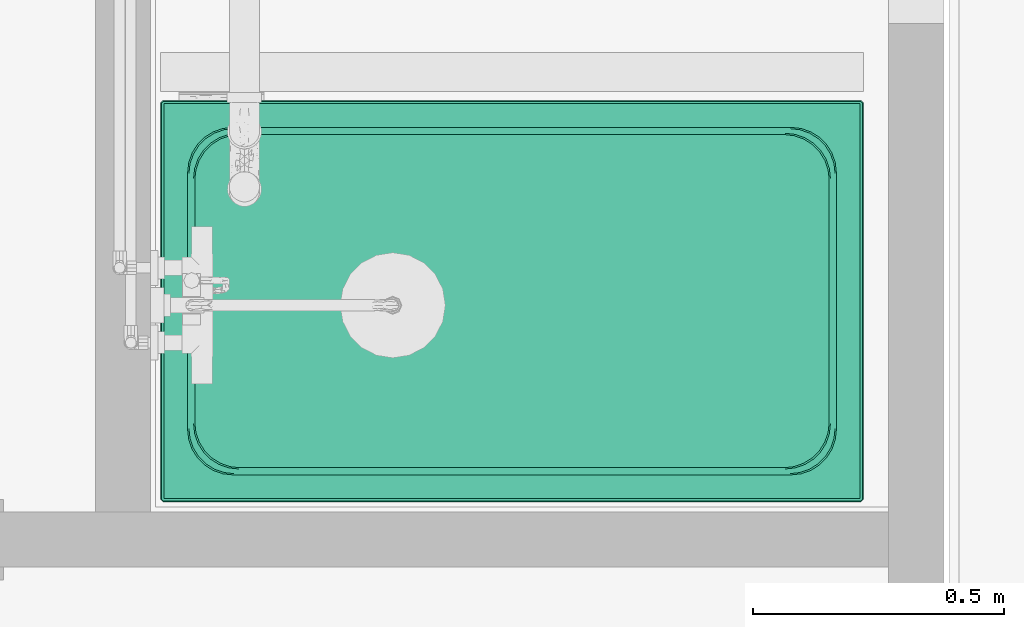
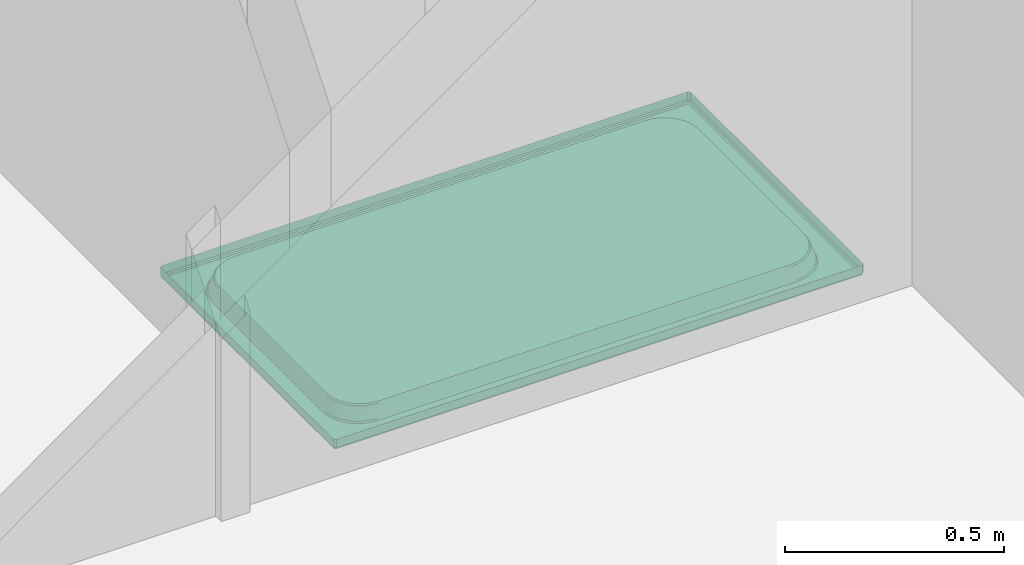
# One storey, part 32 of 41: 1 flow terminal.
"""IFC2X3 building model written with IfcOpenShell, lengths in millimetres."""

from ifc_helpers import new_model, entity, si_unit, converted_unit, derived_unit, direction, frame, origin, place, context, subcontext, project, spatial, face_set, surface_model, source, transform, mapped, element, save


model = new_model("IFC2X3")

# Units and contexts
model_context = context("Model", 3, precision=0.01, world=origin(), true_north=direction((6.12303176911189e-17, 1.0)))
body_context = subcontext(model_context, "Body", "Model", "MODEL_VIEW")
ifc_project = project(units=[si_unit("LENGTHUNIT", "METRE", prefix="MILLI"), si_unit("AREAUNIT", "SQUARE_METRE"), si_unit("VOLUMEUNIT", "CUBIC_METRE"), converted_unit("PLANEANGLEUNIT", "DEGREE", entity("IfcRatioMeasure", 0.0174532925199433), si_unit("PLANEANGLEUNIT", "RADIAN"), dimensions=[0, 0, 0, 0, 0, 0, 0]), si_unit("MASSUNIT", "GRAM", prefix="KILO"), derived_unit("MASSDENSITYUNIT", [(si_unit("MASSUNIT", "GRAM", prefix="KILO"), 1), (si_unit("LENGTHUNIT", "METRE"), -3)]), si_unit("TIMEUNIT", "SECOND"), si_unit("FREQUENCYUNIT", "HERTZ"), si_unit("THERMODYNAMICTEMPERATUREUNIT", "DEGREE_CELSIUS"), derived_unit("THERMALTRANSMITTANCEUNIT", [(si_unit("MASSUNIT", "GRAM", prefix="KILO"), 1), (si_unit("THERMODYNAMICTEMPERATUREUNIT", "KELVIN"), -1), (si_unit("TIMEUNIT", "SECOND"), -3)]), derived_unit("VOLUMETRICFLOWRATEUNIT", [(si_unit("LENGTHUNIT", "METRE"), 3), (si_unit("TIMEUNIT", "SECOND"), -1)]), si_unit("ELECTRICCURRENTUNIT", "AMPERE"), si_unit("ELECTRICVOLTAGEUNIT", "VOLT"), si_unit("POWERUNIT", "WATT"), si_unit("FORCEUNIT", "NEWTON", prefix="KILO"), si_unit("ILLUMINANCEUNIT", "LUX"), si_unit("LUMINOUSFLUXUNIT", "LUMEN"), si_unit("LUMINOUSINTENSITYUNIT", "CANDELA"), derived_unit("USERDEFINED", [(si_unit("MASSUNIT", "GRAM", prefix="KILO"), -1), (si_unit("LENGTHUNIT", "METRE"), -2), (si_unit("TIMEUNIT", "SECOND"), 3), (si_unit("LUMINOUSFLUXUNIT", "LUMEN"), 1)]), derived_unit("LINEARVELOCITYUNIT", [(si_unit("LENGTHUNIT", "METRE"), 1), (si_unit("TIMEUNIT", "SECOND"), -1)]), si_unit("PRESSUREUNIT", "PASCAL"), derived_unit("USERDEFINED", [(si_unit("LENGTHUNIT", "METRE"), -2), (si_unit("MASSUNIT", "GRAM", prefix="KILO"), 1), (si_unit("TIMEUNIT", "SECOND"), -2)])], contexts=[model_context])

# Site, building, storey
site_placement = place(None, origin())
site = spatial("IfcSite", under=ifc_project, at=site_placement, Name="Surface", CompositionType="ELEMENT")
building_placement = place(site_placement, origin())
building = spatial("IfcBuilding", under=site, at=building_placement, CompositionType="ELEMENT")
storey_placement = place(building_placement, frame((0.0, 0.0, 300.0)))
storey = spatial("IfcBuildingStorey", under=building, at=storey_placement, Name="F.F.L", CompositionType="ELEMENT", Elevation=300.0)

# Flow terminal
shared_shape = source(origin(), body_context, "Body", "SurfaceModel", [
    surface_model("IfcFaceBasedSurfaceModel", [(-5.34056911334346e-06, -794.999947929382, 22.9999996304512), (-5.34056911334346e-06, -4.99992873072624, 22.9999996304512), (-5.34056911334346e-06, -794.999947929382, -3.39753690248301e-07), (-5.34056911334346e-06, -4.99992873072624, -3.39753690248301e-07), (1395.000025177, -799.999933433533, 22.9999996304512), (4.9999951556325, -799.999933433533, 22.9999996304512), (1395.000025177, -799.999933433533, -3.39753690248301e-07), (4.9999951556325, -799.999933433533, -3.39753690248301e-07), (4.9999951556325, 7.14594890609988e-05, 22.9999996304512), (4.9999951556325, 7.14594890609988e-05, -3.39753690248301e-07), (1395.000025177, 7.14594890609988e-05, 22.9999996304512), (1395.000025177, 7.14594890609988e-05, -3.39753690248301e-07), (1400.00001068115, -4.99992873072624, 22.9999996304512), (1400.00001068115, -4.99992873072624, -3.39753690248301e-07), (1400.00001068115, -794.999947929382, 22.9999996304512), (1400.00001068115, -794.999947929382, -3.39753690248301e-07), (158.167961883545, -731.831928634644, -13.552993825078), (138.140986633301, -729.575889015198, -13.552993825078), (162.429020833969, -727.570924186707, -14.9999928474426), (142.401972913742, -725.3138671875, -14.9999905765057), (119.117974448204, -722.918955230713, -13.5529904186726), (123.379996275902, -718.657878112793, -14.9999883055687), (102.054008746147, -712.196862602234, -13.5529858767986), (106.314995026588, -707.93593082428, -14.9999848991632), (87.8029709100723, -697.945915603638, -13.5529824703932), (92.0640207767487, -693.684911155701, -14.9999814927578), (77.0809872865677, -680.881913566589, -13.5529767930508), (81.341973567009, -676.619891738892, -14.9999746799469), (70.4240080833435, -661.858946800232, -13.5529688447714), (74.6859708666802, -657.597869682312, -14.999967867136), (68.1679639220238, -641.831898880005, -13.552963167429), (72.4290137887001, -637.570894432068, -14.9999621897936), (155.66796913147, -734.331921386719, -9.8119942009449), (135.640984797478, -732.075881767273, -9.81199306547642), (116.617972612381, -725.418947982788, -9.81199079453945), (99.5540069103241, -714.696855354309, -9.81198852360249), (85.3029690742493, -700.445908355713, -9.81198284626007), (74.5809899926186, -683.381906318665, -9.81197716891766), (67.9240062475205, -664.358939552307, -9.81196922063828), (65.6679620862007, -644.33189163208, -9.81196240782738), (146.390001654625, -743.609916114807, 24.8120052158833), (126.36400744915, -741.352931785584, 24.8120052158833), (107.340995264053, -734.696942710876, 24.8120052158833), (90.27599401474, -723.97390537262, 24.8120097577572), (76.0259962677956, -709.723903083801, 24.8120142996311), (65.3029725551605, -692.658956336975, 24.8120188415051), (58.6469698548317, -673.635916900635, 24.8120279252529), (56.3900082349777, -653.609886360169, 24.8120370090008), (143.89000890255, -746.109908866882, 28.5530014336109), (123.862970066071, -743.852924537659, 28.5530014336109), (104.84099342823, -737.196935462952, 28.5530059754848), (87.7759921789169, -726.474915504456, 28.5530105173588), (73.5250179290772, -712.223895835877, 28.5530150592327), (62.8029752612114, -695.15894908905, 28.5530196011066), (56.1469680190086, -676.136927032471, 28.5530241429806), (53.8900109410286, -656.109879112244, 28.5530332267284), (139.629022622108, -750.370913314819, 30.000001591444), (119.601983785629, -748.114946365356, 30.000001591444), (100.578971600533, -741.457939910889, 30.000006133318), (83.5150058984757, -730.735919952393, 30.000006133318), (69.2639726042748, -716.484900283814, 30.0000106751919), (58.5419889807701, -699.420970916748, 30.0000197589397), (51.885005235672, -680.397931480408, 30.0000243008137), (49.6290246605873, -660.370883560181, 30.0000288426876), (1331.83295059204, -641.831898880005, -13.552963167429), (1329.57611160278, -661.858946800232, -13.5529688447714), (1327.57100143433, -637.570894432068, -14.9999621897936), (1325.3148891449, -657.597869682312, -14.999967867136), (1322.91997718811, -680.881913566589, -13.5529767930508), (1318.6580280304, -676.619891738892, -14.9999746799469), (1312.19708518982, -697.945915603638, -13.5529824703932), (1307.9360080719, -693.684911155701, -14.9999814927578), (1297.947082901, -712.196862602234, -13.5529858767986), (1293.68498840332, -707.93593082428, -14.9999848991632), (1280.88199081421, -722.918955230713, -13.5529904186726), (1276.62091369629, -718.657878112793, -14.9999883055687), (1261.86004142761, -729.575889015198, -13.552993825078), (1257.5980922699, -725.3138671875, -14.9999905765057), (1241.83306617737, -731.831928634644, -13.552993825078), (1237.57111701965, -727.570924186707, -14.9999928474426), (1334.33294334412, -644.33189163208, -9.81196240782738), (1332.07610435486, -664.358939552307, -9.81196922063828), (1325.42011528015, -683.381906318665, -9.81197716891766), (1314.69794998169, -700.445908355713, -9.81198284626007), (1300.44707565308, -714.696855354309, -9.81198852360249), (1283.38198356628, -725.418947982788, -9.81199079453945), (1264.36003417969, -732.075881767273, -9.81199306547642), (1244.33305892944, -734.331921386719, -9.8119942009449), (1343.60999336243, -653.609886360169, 24.8120370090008), (1341.35402641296, -673.635916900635, 24.8120279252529), (1334.6970199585, -692.658956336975, 24.8120188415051), (1323.975, -709.723903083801, 24.8120142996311), (1309.72398033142, -723.97390537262, 24.8120097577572), (1292.66005096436, -734.696942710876, 24.8120052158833), (1273.63693885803, -741.352931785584, 24.8120052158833), (1253.60996360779, -743.609916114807, 24.8120052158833), (1346.1099861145, -656.109879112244, 28.5530332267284), (1343.85401916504, -676.136927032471, 28.5530241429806), (1337.19701271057, -695.15894908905, 28.5530196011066), (1326.47499275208, -712.223895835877, 28.5530150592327), (1312.2239730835, -726.474915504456, 28.5530105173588), (1295.16004371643, -737.196935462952, 28.5530059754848), (1276.13693161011, -743.852924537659, 28.5530014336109), (1256.10995635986, -746.109908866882, 28.5530014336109), (1350.37193527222, -660.370883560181, 30.0000288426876), (1348.11495094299, -680.397931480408, 30.0000243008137), (1341.45896186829, -699.420970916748, 30.0000197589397), (1330.73592453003, -716.484900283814, 30.0000106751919), (1316.48592224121, -730.735919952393, 30.000006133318), (1299.42097549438, -741.457939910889, 30.000006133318), (1280.39800872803, -748.114946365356, 30.000001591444), (1260.37190551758, -750.370913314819, 30.000001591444), (1241.83306617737, -68.1669192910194, -13.552763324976), (1261.86004142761, -70.423908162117, -13.5527644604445), (1237.57111701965, -72.4289138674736, -14.999765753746), (1257.5980922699, -74.6849262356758, -14.999765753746), (1280.88199081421, -77.0799154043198, -13.5527667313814), (1276.62091369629, -81.3419099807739, -14.9997668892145), (1297.947082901, -87.8029073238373, -13.5527701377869), (1293.68498840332, -92.0639208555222, -14.9997714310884), (1312.19708518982, -102.052909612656, -13.5527758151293), (1307.9360080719, -106.314931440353, -14.9997771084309), (1322.91997718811, -119.117910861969, -13.5527826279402), (1318.6580280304, -123.37889714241, -14.9997827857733), (1329.57611160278, -138.139914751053, -13.5527883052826), (1325.3148891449, -142.401909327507, -14.9997907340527), (1331.83295059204, -158.166926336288, -13.5527951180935), (1327.57100143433, -162.428911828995, -14.9997964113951), (1244.33305892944, -65.6669174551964, -9.81176370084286), (1264.36003417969, -67.9239063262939, -9.81176370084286), (1283.38198356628, -74.5799135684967, -9.81176597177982), (1300.44707565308, -85.3019335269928, -9.81176937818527), (1314.69794998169, -99.5529077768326, -9.81177505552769), (1325.42011528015, -116.617909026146, -9.8117807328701), (1332.07610435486, -135.63991291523, -9.81178641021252), (1334.33294334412, -155.666915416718, -9.8117943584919), (1253.60996360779, -56.3899401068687, 24.8122413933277), (1273.63693885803, -58.6459252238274, 24.8122413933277), (1292.66005096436, -65.3029362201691, 24.8122368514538), (1309.72398033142, -76.0249198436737, 24.8122323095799), (1323.975, -90.275930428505, 24.8122277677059), (1334.6970199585, -107.339923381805, 24.812223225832), (1341.35402641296, -126.362935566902, 24.8122186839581), (1343.60999336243, -146.389928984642, 24.8122096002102), (1256.10995635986, -53.8899428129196, 28.5532421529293), (1276.13693161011, -56.1459233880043, 28.5532421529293), (1295.16004371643, -62.802934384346, 28.5532376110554), (1312.2239730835, -73.5249225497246, 28.5532330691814), (1326.47499275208, -87.7759285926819, 28.5532285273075), (1337.19701271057, -104.839921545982, 28.5532239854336), (1343.85401916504, -123.862933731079, 28.5532194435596), (1346.1099861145, -143.889945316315, 28.5532103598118), (1260.37190551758, -49.6279164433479, 30.0002423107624), (1280.39800872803, -51.884937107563, 30.0002423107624), (1299.42097549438, -58.5409443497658, 30.0002423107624), (1316.48592224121, -69.2639362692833, 30.0002377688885), (1330.73592453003, -83.5139340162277, 30.0002332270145), (1341.45896186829, -100.578935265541, 30.0002241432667), (1348.11495094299, -119.601920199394, 30.0002196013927), (1350.37193527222, -139.627914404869, 30.0002105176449), (68.1679639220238, -158.166926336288, -13.5527951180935), (70.4240080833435, -138.139914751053, -13.5527883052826), (72.4290137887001, -162.428911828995, -14.9997964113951), (74.6859708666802, -142.401909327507, -14.9997907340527), (77.0809872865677, -119.117910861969, -13.5527826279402), (81.341973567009, -123.37889714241, -14.9997827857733), (87.8029709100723, -102.052909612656, -13.5527758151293), (92.0640207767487, -106.314931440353, -14.9997771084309), (102.054008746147, -87.8029073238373, -13.5527701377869), (106.314995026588, -92.0639208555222, -14.9997714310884), (119.117974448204, -77.0799154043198, -13.5527667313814), (123.379996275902, -81.3419099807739, -14.9997668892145), (138.140986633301, -70.423908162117, -13.5527644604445), (142.401972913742, -74.6849262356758, -14.999765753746), (158.167961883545, -68.1669192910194, -13.552763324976), (162.429020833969, -72.4289138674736, -14.999765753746), (65.6679620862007, -155.666915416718, -9.8117943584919), (67.9240062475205, -135.63991291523, -9.81178641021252), (74.5809899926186, -116.617909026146, -9.8117807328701), (85.3029690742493, -99.5529077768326, -9.81177505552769), (99.5540069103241, -85.3019335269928, -9.81176937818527), (116.617972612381, -74.5799135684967, -9.81176597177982), (135.640984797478, -67.9239063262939, -9.81176370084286), (155.66796913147, -65.6669174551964, -9.81176370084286), (56.3900082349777, -146.389928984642, 24.8122096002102), (58.6469698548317, -126.362935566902, 24.8122186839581), (65.3029725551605, -107.339923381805, 24.812223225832), (76.0259962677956, -90.275930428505, 24.8122277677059), (90.27599401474, -76.0249198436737, 24.8122323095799), (107.340995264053, -65.3029362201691, 24.8122368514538), (126.36400744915, -58.6459252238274, 24.8122413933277), (146.390001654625, -56.3899401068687, 24.8122413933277), (53.8900109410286, -143.889945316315, 28.5532103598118), (56.1469680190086, -123.862933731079, 28.5532194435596), (62.8029752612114, -104.839921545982, 28.5532239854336), (73.5250179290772, -87.7759285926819, 28.5532285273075), (87.7759921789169, -73.5249225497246, 28.5532330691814), (104.84099342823, -62.802934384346, 28.5532376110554), (123.862970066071, -56.1459233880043, 28.5532421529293), (143.89000890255, -53.8899428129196, 28.5532421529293), (49.6290246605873, -139.627914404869, 30.0002105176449), (51.885005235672, -119.601920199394, 30.0002196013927), (58.5419889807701, -100.578935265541, 30.0002241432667), (69.2639726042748, -83.5139340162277, 30.0002332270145), (83.5150058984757, -69.2639362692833, 30.0002377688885), (100.578971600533, -58.5409443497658, 30.0002423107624), (119.601983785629, -51.884937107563, 30.0002423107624), (139.629022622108, -49.6279164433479, 30.0002423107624), (1394.21489868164, -798.105935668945, 27.9499995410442), (1398.10594024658, -794.214966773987, 27.9499995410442), (1392.32097358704, -793.532958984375, 30.000006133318), (1393.53296356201, -792.320896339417, 30.000006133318), (5.78496779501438, -798.105935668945, 27.9499995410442), (7.6790109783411, -793.532958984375, 30.000006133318), (1.89397647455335, -794.214966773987, 27.9499995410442), (6.46697501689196, -792.320896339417, 30.000006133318), (1.89397647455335, -5.78493202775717, 27.9502765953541), (6.46697501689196, -7.67891389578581, 30.0002741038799), (5.78496779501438, -1.89394099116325, 27.9502765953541), (7.6790109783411, -6.4669386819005, 30.0002741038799), (1394.21489868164, -1.89394099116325, 27.9502765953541), (1392.32097358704, -6.4669386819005, 30.0002741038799), (1398.10594024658, -5.78493202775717, 27.9502765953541), (1393.53296356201, -7.67891389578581, 30.0002741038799), (1278.00004463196, -172.999923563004, -13.7999990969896), (1276.46699867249, -161.352923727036, -13.7999990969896), (1233.00002975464, -172.999923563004, -12.7999988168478), (1271.97090682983, -150.499925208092, -13.7999990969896), (1264.81988983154, -141.179918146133, -13.7999990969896), (1255.49996452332, -134.028919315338, -13.7999990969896), (1244.64699325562, -129.532945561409, -13.7999990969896), (1233.00002975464, -127.99992685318, -13.7999990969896), (1221.35306625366, -129.532945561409, -13.7999990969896), (1210.50002231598, -134.028919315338, -13.7999990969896), (1201.18002433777, -141.179918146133, -13.7999990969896), (1194.02908000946, -150.499925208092, -13.7999990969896), (1189.53298816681, -161.352923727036, -13.7999990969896), (1188.00001487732, -172.999923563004, -13.7999990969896), (1189.53298816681, -184.646923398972, -13.7999990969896), (1194.02908000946, -195.499931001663, -13.7999990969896), (1201.18002433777, -204.819928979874, -13.7999990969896), (1210.50002231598, -211.970927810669, -13.7999990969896), (1221.35306625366, -216.466928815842, -13.7999990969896), (1233.00002975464, -217.999920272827, -13.7999990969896), (1244.64699325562, -216.466928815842, -13.7999990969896), (1255.49996452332, -211.970927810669, -13.7999990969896), (1264.81988983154, -204.819928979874, -13.7999990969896), (1271.97090682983, -195.499931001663, -13.7999990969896), (1276.46699867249, -184.646923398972, -13.7999990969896), (1278.00004463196, -172.999923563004, -14.7999993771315), (1276.46699867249, -161.352923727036, -14.7999993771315), (1271.97090682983, -150.499925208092, -14.7999993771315), (1264.81988983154, -141.179918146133, -14.7999993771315), (1255.49996452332, -134.028919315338, -14.7999993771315), (1244.64699325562, -129.532945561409, -14.7999993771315), (1233.00002975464, -127.99992685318, -14.7999993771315), (1221.35306625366, -129.532945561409, -14.7999993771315), (1210.50002231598, -134.028919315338, -14.7999993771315), (1201.18002433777, -141.179918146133, -14.7999993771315), (1194.02908000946, -150.499925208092, -14.7999993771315), (1189.53298816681, -161.352923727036, -14.7999993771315), (1188.00001487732, -172.999923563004, -14.7999993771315), (1189.53298816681, -184.646923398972, -14.7999993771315), (1194.02908000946, -195.499931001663, -14.7999993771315), (1201.18002433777, -204.819928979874, -14.7999993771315), (1210.50002231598, -211.970927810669, -14.7999993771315), (1221.35306625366, -216.466928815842, -14.7999993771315), (1233.00002975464, -217.999920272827, -14.7999993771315), (1244.64699325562, -216.466928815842, -14.7999993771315), (1255.49996452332, -211.970927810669, -14.7999993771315), (1264.81988983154, -204.819928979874, -14.7999993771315), (1271.97090682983, -195.499931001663, -14.7999993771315), (1276.46699867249, -184.646923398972, -14.7999993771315), (1179.87405738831, -187.234919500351, -13.7999990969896), (1177.99997119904, -172.999923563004, -13.7999990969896), (1179.87405738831, -158.764927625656, -13.7999990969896), (1185.36899814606, -145.499930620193, -13.7999990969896), (1194.10901699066, -134.10893805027, -13.7999990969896), (1205.49996414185, -125.368946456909, -13.7999990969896), (1218.7649974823, -119.873923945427, -13.7999990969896), (1233.00002975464, -117.999928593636, -13.7999990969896), (1247.23491668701, -119.873923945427, -13.7999990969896), (1260.49995002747, -125.368946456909, -13.7999990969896), (1271.89096984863, -134.10893805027, -13.7999990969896), (1280.63098869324, -145.499930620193, -13.7999990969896), (1286.12600212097, -158.764927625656, -13.7999990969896), (1288.00001564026, -172.999923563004, -13.7999990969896), (1286.12600212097, -187.234919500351, -13.7999990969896), (1280.63098869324, -200.499934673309, -13.7999990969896), (1271.89096984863, -211.890936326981, -13.7999990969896), (1260.49995002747, -220.630918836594, -13.7999990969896), (1247.23491668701, -226.125932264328, -13.7999990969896), (1233.00002975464, -227.999927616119, -13.7999990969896), (1218.7649974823, -226.125932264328, -13.7999990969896), (1205.49996414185, -220.630918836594, -13.7999990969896), (1194.10901699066, -211.890936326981, -13.7999990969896), (1185.36899814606, -200.499934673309, -13.7999990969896)], [face_set([[[0, 1, 2]], [[1, 3, 2]], [[4, 5, 6]], [[5, 7, 6]], [[5, 0, 7]], [[0, 2, 7]], [[1, 8, 3]], [[8, 9, 3]], [[8, 10, 9]], [[10, 11, 9]], [[10, 12, 11]], [[12, 13, 11]], [[14, 4, 15]], [[4, 6, 15]], [[12, 14, 13]], [[14, 15, 13]], [[16, 17, 18]], [[17, 19, 18]], [[17, 20, 19]], [[20, 21, 19]], [[20, 22, 21]], [[22, 23, 21]], [[22, 24, 23]], [[24, 25, 23]], [[24, 26, 25]], [[26, 27, 25]], [[26, 28, 27]], [[28, 29, 27]], [[28, 30, 29]], [[30, 31, 29]], [[32, 33, 16]], [[33, 17, 16]], [[33, 34, 17]], [[34, 20, 17]], [[34, 35, 20]], [[35, 22, 20]], [[35, 36, 22]], [[36, 24, 22]], [[36, 37, 24]], [[37, 26, 24]], [[37, 38, 26]], [[38, 28, 26]], [[38, 39, 28]], [[39, 30, 28]], [[40, 41, 32]], [[41, 33, 32]], [[41, 42, 33]], [[42, 34, 33]], [[42, 43, 34]], [[43, 35, 34]], [[43, 44, 35]], [[44, 36, 35]], [[44, 45, 36]], [[45, 37, 36]], [[45, 46, 37]], [[46, 38, 37]], [[46, 47, 38]], [[47, 39, 38]], [[48, 49, 40]], [[49, 41, 40]], [[49, 50, 41]], [[50, 42, 41]], [[50, 51, 42]], [[51, 43, 42]], [[51, 52, 43]], [[52, 44, 43]], [[52, 53, 44]], [[53, 45, 44]], [[53, 54, 45]], [[54, 46, 45]], [[54, 55, 46]], [[55, 47, 46]], [[56, 57, 48]], [[57, 49, 48]], [[57, 58, 49]], [[58, 50, 49]], [[58, 59, 50]], [[59, 51, 50]], [[59, 60, 51]], [[60, 52, 51]], [[60, 61, 52]], [[61, 53, 52]], [[61, 62, 53]], [[62, 54, 53]], [[62, 63, 54]], [[63, 55, 54]], [[64, 65, 66]], [[65, 67, 66]], [[65, 68, 67]], [[68, 69, 67]], [[68, 70, 69]], [[70, 71, 69]], [[70, 72, 71]], [[72, 73, 71]], [[72, 74, 73]], [[74, 75, 73]], [[74, 76, 75]], [[76, 77, 75]], [[76, 78, 77]], [[78, 79, 77]], [[80, 81, 64]], [[81, 65, 64]], [[81, 82, 65]], [[82, 68, 65]], [[82, 83, 68]], [[83, 70, 68]], [[83, 84, 70]], [[84, 72, 70]], [[84, 85, 72]], [[85, 74, 72]], [[85, 86, 74]], [[86, 76, 74]], [[86, 87, 76]], [[87, 78, 76]], [[88, 89, 80]], [[89, 81, 80]], [[89, 90, 81]], [[90, 82, 81]], [[90, 91, 82]], [[91, 83, 82]], [[91, 92, 83]], [[92, 84, 83]], [[92, 93, 84]], [[93, 85, 84]], [[93, 94, 85]], [[94, 86, 85]], [[94, 95, 86]], [[95, 87, 86]], [[96, 97, 88]], [[97, 89, 88]], [[97, 98, 89]], [[98, 90, 89]], [[98, 99, 90]], [[99, 91, 90]], [[99, 100, 91]], [[100, 92, 91]], [[100, 101, 92]], [[101, 93, 92]], [[101, 102, 93]], [[102, 94, 93]], [[102, 103, 94]], [[103, 95, 94]], [[104, 105, 96]], [[105, 97, 96]], [[105, 106, 97]], [[106, 98, 97]], [[106, 107, 98]], [[107, 99, 98]], [[107, 108, 99]], [[108, 100, 99]], [[108, 109, 100]], [[109, 101, 100]], [[109, 110, 101]], [[110, 102, 101]], [[110, 111, 102]], [[111, 103, 102]], [[112, 113, 114]], [[113, 115, 114]], [[113, 116, 115]], [[116, 117, 115]], [[116, 118, 117]], [[118, 119, 117]], [[118, 120, 119]], [[120, 121, 119]], [[120, 122, 121]], [[122, 123, 121]], [[122, 124, 123]], [[124, 125, 123]], [[124, 126, 125]], [[126, 127, 125]], [[128, 129, 112]], [[129, 113, 112]], [[129, 130, 113]], [[130, 116, 113]], [[130, 131, 116]], [[131, 118, 116]], [[131, 132, 118]], [[132, 120, 118]], [[132, 133, 120]], [[133, 122, 120]], [[133, 134, 122]], [[134, 124, 122]], [[134, 135, 124]], [[135, 126, 124]], [[136, 137, 128]], [[137, 129, 128]], [[137, 138, 129]], [[138, 130, 129]], [[138, 139, 130]], [[139, 131, 130]], [[139, 140, 131]], [[140, 132, 131]], [[140, 141, 132]], [[141, 133, 132]], [[141, 142, 133]], [[142, 134, 133]], [[142, 143, 134]], [[143, 135, 134]], [[144, 145, 136]], [[145, 137, 136]], [[145, 146, 137]], [[146, 138, 137]], [[146, 147, 138]], [[147, 139, 138]], [[147, 148, 139]], [[148, 140, 139]], [[148, 149, 140]], [[149, 141, 140]], [[149, 150, 141]], [[150, 142, 141]], [[150, 151, 142]], [[151, 143, 142]], [[152, 153, 144]], [[153, 145, 144]], [[153, 154, 145]], [[154, 146, 145]], [[154, 155, 146]], [[155, 147, 146]], [[155, 156, 147]], [[156, 148, 147]], [[156, 157, 148]], [[157, 149, 148]], [[157, 158, 149]], [[158, 150, 149]], [[158, 159, 150]], [[159, 151, 150]], [[160, 161, 162]], [[161, 163, 162]], [[161, 164, 163]], [[164, 165, 163]], [[164, 166, 165]], [[166, 167, 165]], [[166, 168, 167]], [[168, 169, 167]], [[168, 170, 169]], [[170, 171, 169]], [[170, 172, 171]], [[172, 173, 171]], [[172, 174, 173]], [[174, 175, 173]], [[176, 177, 160]], [[177, 161, 160]], [[177, 178, 161]], [[178, 164, 161]], [[178, 179, 164]], [[179, 166, 164]], [[179, 180, 166]], [[180, 168, 166]], [[180, 181, 168]], [[181, 170, 168]], [[181, 182, 170]], [[182, 172, 170]], [[182, 183, 172]], [[183, 174, 172]], [[184, 185, 176]], [[185, 177, 176]], [[185, 186, 177]], [[186, 178, 177]], [[186, 187, 178]], [[187, 179, 178]], [[187, 188, 179]], [[188, 180, 179]], [[188, 189, 180]], [[189, 181, 180]], [[189, 190, 181]], [[190, 182, 181]], [[190, 191, 182]], [[191, 183, 182]], [[192, 193, 184]], [[193, 185, 184]], [[193, 194, 185]], [[194, 186, 185]], [[194, 195, 186]], [[195, 187, 186]], [[195, 196, 187]], [[196, 188, 187]], [[196, 197, 188]], [[197, 189, 188]], [[197, 198, 189]], [[198, 190, 189]], [[198, 199, 190]], [[199, 191, 190]], [[200, 201, 192]], [[201, 193, 192]], [[201, 202, 193]], [[202, 194, 193]], [[202, 203, 194]], [[203, 195, 194]], [[203, 204, 195]], [[204, 196, 195]], [[204, 205, 196]], [[205, 197, 196]], [[205, 206, 197]], [[206, 198, 197]], [[206, 207, 198]], [[207, 199, 198]], [[144, 199, 152]], [[199, 207, 152]], [[136, 191, 144]], [[191, 199, 144]], [[128, 183, 136]], [[183, 191, 136]], [[112, 174, 128]], [[174, 183, 128]], [[114, 175, 112]], [[175, 174, 112]], [[96, 151, 104]], [[151, 159, 104]], [[88, 143, 96]], [[143, 151, 96]], [[80, 135, 88]], [[135, 143, 88]], [[64, 126, 80]], [[126, 135, 80]], [[66, 127, 64]], [[127, 126, 64]], [[48, 103, 56]], [[103, 111, 56]], [[40, 95, 48]], [[95, 103, 48]], [[32, 87, 40]], [[87, 95, 40]], [[16, 78, 32]], [[78, 87, 32]], [[18, 79, 16]], [[79, 78, 16]], [[192, 55, 200]], [[55, 63, 200]], [[184, 47, 192]], [[47, 55, 192]], [[176, 39, 184]], [[39, 47, 184]], [[160, 30, 176]], [[30, 39, 176]], [[162, 31, 160]], [[31, 30, 160]], [[4, 208, 14]], [[208, 209, 14]], [[208, 210, 209]], [[210, 211, 209]], [[5, 212, 4]], [[212, 208, 4]], [[212, 213, 208]], [[213, 210, 208]], [[0, 214, 5]], [[214, 212, 5]], [[214, 215, 212]], [[215, 213, 212]], [[1, 216, 0]], [[216, 214, 0]], [[216, 217, 214]], [[217, 215, 214]], [[8, 218, 1]], [[218, 216, 1]], [[218, 219, 216]], [[219, 217, 216]], [[10, 220, 8]], [[220, 218, 8]], [[220, 221, 218]], [[221, 219, 218]], [[12, 222, 10]], [[222, 220, 10]], [[222, 223, 220]], [[223, 221, 220]], [[14, 209, 12]], [[209, 222, 12]], [[209, 211, 222]], [[211, 223, 222]], [[18, 19, 21]], [[18, 21, 23]], [[18, 23, 25]], [[18, 25, 27]], [[18, 27, 29]], [[18, 29, 31]], [[18, 31, 162]], [[18, 162, 163]], [[18, 163, 165]], [[18, 165, 167]], [[18, 167, 169]], [[18, 169, 171]], [[18, 171, 173]], [[18, 173, 175]], [[18, 175, 114]], [[18, 114, 115]], [[18, 115, 117]], [[18, 117, 119]], [[18, 119, 121]], [[18, 121, 123]], [[18, 123, 125]], [[18, 125, 127]], [[18, 127, 66]], [[18, 66, 67]], [[18, 67, 69]], [[18, 69, 71]], [[18, 71, 73]], [[18, 73, 75]], [[18, 75, 77]], [[18, 77, 79]], [[221, 223, 210]], [[221, 210, 104]], [[221, 104, 159]], [[221, 159, 158]], [[221, 158, 157]], [[221, 157, 156]], [[221, 156, 155]], [[221, 155, 154]], [[221, 154, 153]], [[221, 153, 152]], [[221, 152, 207]], [[221, 207, 219]], [[219, 207, 206]], [[219, 206, 205]], [[219, 205, 204]], [[219, 204, 203]], [[219, 203, 202]], [[219, 202, 201]], [[219, 201, 200]], [[219, 200, 213]], [[219, 213, 215]], [[219, 215, 217]], [[210, 213, 56]], [[210, 56, 111]], [[210, 111, 110]], [[210, 110, 109]], [[210, 109, 108]], [[210, 108, 107]], [[210, 107, 106]], [[210, 106, 105]], [[210, 105, 104]], [[213, 200, 63]], [[213, 63, 62]], [[213, 62, 61]], [[213, 61, 60]], [[213, 60, 59]], [[213, 59, 58]], [[213, 58, 57]], [[213, 57, 56]], [[210, 223, 211]]]), face_set([[[224, 225, 226]], [[225, 227, 226]], [[227, 228, 226]], [[228, 229, 226]], [[229, 230, 226]], [[230, 231, 226]], [[231, 232, 226]], [[232, 233, 226]], [[233, 234, 226]], [[234, 235, 226]], [[235, 236, 226]], [[236, 237, 226]], [[237, 238, 226]], [[238, 239, 226]], [[239, 240, 226]], [[240, 241, 226]], [[241, 242, 226]], [[242, 243, 226]], [[243, 244, 226]], [[244, 245, 226]], [[245, 246, 226]], [[246, 247, 226]], [[247, 248, 226]], [[248, 224, 226]], [[249, 250, 224]], [[250, 225, 224]], [[250, 251, 225]], [[251, 227, 225]], [[251, 252, 227]], [[252, 228, 227]], [[252, 253, 228]], [[253, 229, 228]], [[253, 254, 229]], [[254, 230, 229]], [[254, 255, 230]], [[255, 231, 230]], [[255, 256, 231]], [[256, 232, 231]], [[256, 257, 232]], [[257, 233, 232]], [[257, 258, 233]], [[258, 234, 233]], [[258, 259, 234]], [[259, 235, 234]], [[259, 260, 235]], [[260, 236, 235]], [[260, 261, 236]], [[261, 237, 236]], [[261, 262, 237]], [[262, 238, 237]], [[262, 263, 238]], [[263, 239, 238]], [[263, 264, 239]], [[264, 240, 239]], [[264, 265, 240]], [[265, 241, 240]], [[265, 266, 241]], [[266, 242, 241]], [[266, 267, 242]], [[267, 243, 242]], [[267, 268, 243]], [[268, 244, 243]], [[268, 269, 244]], [[269, 245, 244]], [[269, 270, 245]], [[270, 246, 245]], [[270, 271, 246]], [[271, 247, 246]], [[271, 272, 247]], [[272, 248, 247]], [[272, 249, 248]], [[249, 224, 248]], [[249, 272, 271]], [[249, 271, 270]], [[249, 270, 269]], [[249, 269, 268]], [[249, 268, 267]], [[249, 267, 266]], [[249, 266, 265]], [[249, 265, 264]], [[249, 264, 263]], [[249, 263, 262]], [[249, 262, 261]], [[249, 261, 260]], [[249, 260, 259]], [[249, 259, 258]], [[249, 258, 257]], [[249, 257, 256]], [[249, 256, 255]], [[249, 255, 254]], [[249, 254, 253]], [[249, 253, 252]], [[249, 252, 251]], [[249, 251, 250]], [[262, 273, 261]], [[273, 274, 261]], [[261, 274, 260]], [[274, 275, 260]], [[260, 275, 259]], [[275, 276, 259]], [[259, 276, 258]], [[276, 277, 258]], [[258, 277, 257]], [[277, 278, 257]], [[257, 278, 256]], [[278, 279, 256]], [[256, 279, 255]], [[279, 280, 255]], [[255, 280, 254]], [[280, 281, 254]], [[254, 281, 253]], [[281, 282, 253]], [[253, 282, 252]], [[282, 283, 252]], [[252, 283, 251]], [[283, 284, 251]], [[251, 284, 250]], [[284, 285, 250]], [[250, 285, 249]], [[285, 286, 249]], [[249, 286, 272]], [[286, 287, 272]], [[272, 287, 271]], [[287, 288, 271]], [[271, 288, 270]], [[288, 289, 270]], [[270, 289, 269]], [[289, 290, 269]], [[269, 290, 268]], [[290, 291, 268]], [[268, 291, 267]], [[291, 292, 267]], [[267, 292, 266]], [[292, 293, 266]], [[266, 293, 265]], [[293, 294, 265]], [[265, 294, 264]], [[294, 295, 264]], [[264, 295, 263]], [[295, 296, 263]], [[263, 296, 262]], [[296, 273, 262]], [[260, 259, 258]], [[260, 258, 257]], [[260, 257, 256]], [[260, 256, 255]], [[260, 255, 254]], [[260, 254, 253]], [[260, 253, 252]], [[260, 252, 251]], [[260, 251, 250]], [[260, 250, 249]], [[260, 249, 272]], [[260, 272, 271]], [[260, 271, 270]], [[260, 270, 269]], [[260, 269, 268]], [[260, 268, 267]], [[260, 267, 266]], [[260, 266, 265]], [[260, 265, 264]], [[260, 264, 263]], [[260, 263, 262]], [[260, 262, 261]]])]),
])
flow_terminal_placement = place(storey_placement, frame((-1106.87517007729, 9375.84008915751, 0.0), z_axis=(0.0, 0.0, -1.0), x_axis=(-1.0, 0.0, 0.0)))
element("IfcFlowTerminal", 1, at=flow_terminal_placement, inside=storey, Name="Shower tray, sanitary acrylic 1400x800x45-Solutions-Laufen-212507:212507000 White", ObjectType="212507000 White", context=body_context, shape_type="MappedRepresentation", body=[
    mapped(shared_shape, transform((0.0, 0.0, 0.0), scale=1.0)),
])

save(model, "model.ifc")
